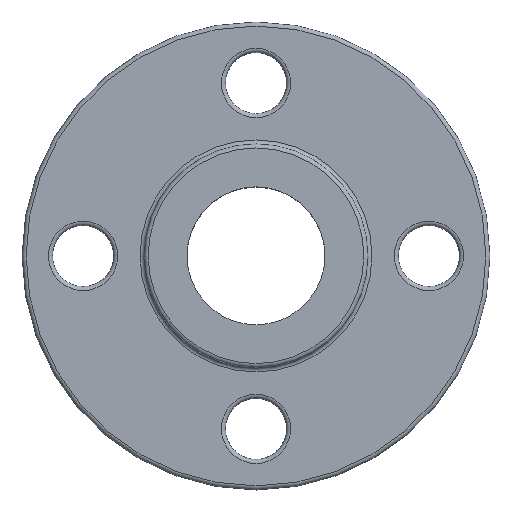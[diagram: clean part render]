
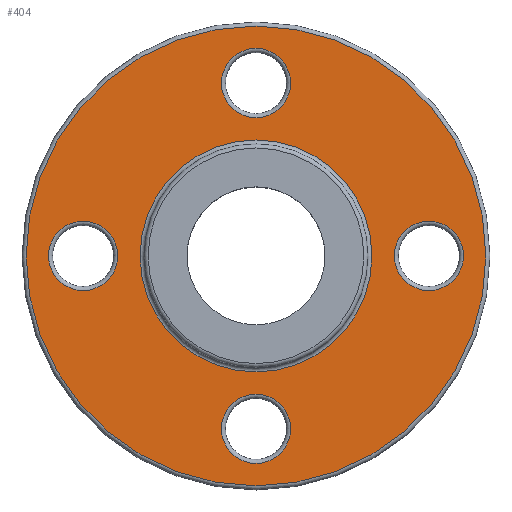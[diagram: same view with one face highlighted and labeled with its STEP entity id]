
A CAD part, top view. The second image highlights one B-rep face of the part: STEP entity #404.
In plain terms, the highlighted planar face has unit normal (0, 0, 1).
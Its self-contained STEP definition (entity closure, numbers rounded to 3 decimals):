
#16=FACE_BOUND('',#88,.T.);
#17=FACE_BOUND('',#89,.T.);
#18=FACE_BOUND('',#90,.T.);
#19=FACE_BOUND('',#91,.T.);
#20=FACE_BOUND('',#92,.T.);
#28=PLANE('',#454);
#59=FACE_OUTER_BOUND('',#87,.T.);
#87=EDGE_LOOP('',(#283));
#88=EDGE_LOOP('',(#284));
#89=EDGE_LOOP('',(#285));
#90=EDGE_LOOP('',(#286));
#91=EDGE_LOOP('',(#287));
#92=EDGE_LOOP('',(#288));
#129=CIRCLE('',#453,11.3);
#130=CIRCLE('',#455,5.7);
#131=CIRCLE('',#456,1.7);
#132=CIRCLE('',#457,1.7);
#133=CIRCLE('',#458,1.7);
#134=CIRCLE('',#459,1.7);
#178=VERTEX_POINT('',#704);
#179=VERTEX_POINT('',#708);
#180=VERTEX_POINT('',#710);
#181=VERTEX_POINT('',#712);
#182=VERTEX_POINT('',#714);
#183=VERTEX_POINT('',#716);
#217=EDGE_CURVE('',#178,#178,#129,.T.);
#218=EDGE_CURVE('',#179,#179,#130,.T.);
#219=EDGE_CURVE('',#180,#180,#131,.T.);
#220=EDGE_CURVE('',#181,#181,#132,.T.);
#221=EDGE_CURVE('',#182,#182,#133,.T.);
#222=EDGE_CURVE('',#183,#183,#134,.T.);
#283=ORIENTED_EDGE('',*,*,#217,.F.);
#284=ORIENTED_EDGE('',*,*,#218,.F.);
#285=ORIENTED_EDGE('',*,*,#219,.F.);
#286=ORIENTED_EDGE('',*,*,#220,.F.);
#287=ORIENTED_EDGE('',*,*,#221,.F.);
#288=ORIENTED_EDGE('',*,*,#222,.F.);
#404=ADVANCED_FACE('',(#59,#16,#17,#18,#19,#20),#28,.T.);
#453=AXIS2_PLACEMENT_3D('',#706,#546,#547);
#454=AXIS2_PLACEMENT_3D('',#707,#548,#549);
#455=AXIS2_PLACEMENT_3D('',#709,#550,#551);
#456=AXIS2_PLACEMENT_3D('',#711,#552,#553);
#457=AXIS2_PLACEMENT_3D('',#713,#554,#555);
#458=AXIS2_PLACEMENT_3D('',#715,#556,#557);
#459=AXIS2_PLACEMENT_3D('',#717,#558,#559);
#546=DIRECTION('center_axis',(0.,0.,-1.));
#547=DIRECTION('ref_axis',(1.,0.,0.));
#548=DIRECTION('center_axis',(0.,0.,1.));
#549=DIRECTION('ref_axis',(1.,0.,0.));
#550=DIRECTION('center_axis',(0.,0.,1.));
#551=DIRECTION('ref_axis',(1.,0.,0.));
#552=DIRECTION('center_axis',(0.,0.,1.));
#553=DIRECTION('ref_axis',(-1.,0.,0.));
#554=DIRECTION('center_axis',(0.,0.,1.));
#555=DIRECTION('ref_axis',(-1.,0.,0.));
#556=DIRECTION('center_axis',(0.,0.,1.));
#557=DIRECTION('ref_axis',(-1.,0.,0.));
#558=DIRECTION('center_axis',(0.,0.,1.));
#559=DIRECTION('ref_axis',(-1.,0.,0.));
#704=CARTESIAN_POINT('',(11.3,0.,1.5));
#706=CARTESIAN_POINT('Origin',(0.,0.,1.5));
#707=CARTESIAN_POINT('Origin',(-11.5,0.,1.5));
#708=CARTESIAN_POINT('',(5.7,0.,1.5));
#709=CARTESIAN_POINT('Origin',(0.,0.,1.5));
#710=CARTESIAN_POINT('',(1.7,8.5,1.5));
#711=CARTESIAN_POINT('Origin',(0.,8.5,1.5));
#712=CARTESIAN_POINT('',(-6.8,0.,1.5));
#713=CARTESIAN_POINT('Origin',(-8.5,0.,1.5));
#714=CARTESIAN_POINT('',(1.7,-8.5,1.5));
#715=CARTESIAN_POINT('Origin',(0.,-8.5,1.5));
#716=CARTESIAN_POINT('',(10.2,0.,1.5));
#717=CARTESIAN_POINT('Origin',(8.5,0.,1.5));
